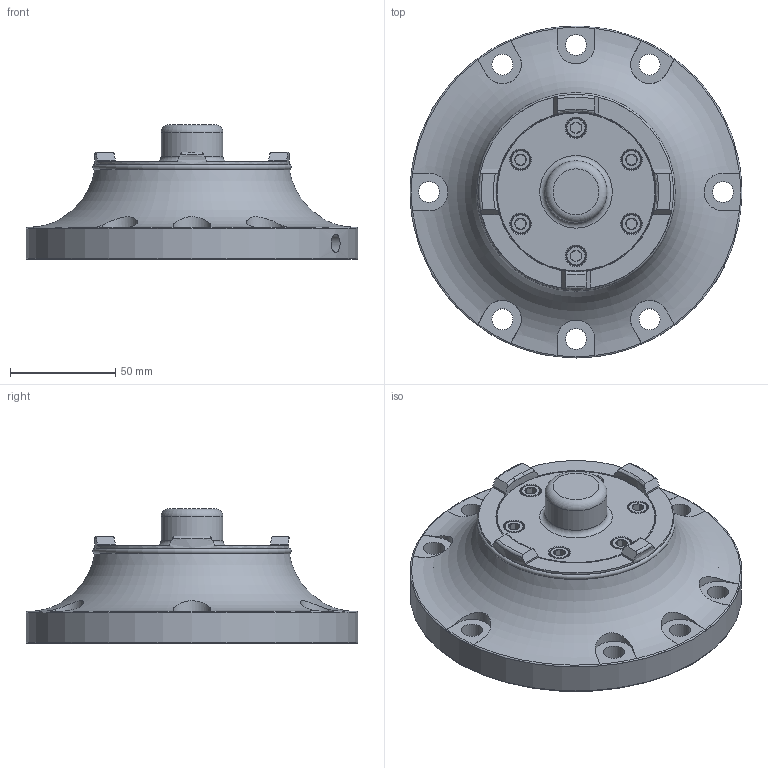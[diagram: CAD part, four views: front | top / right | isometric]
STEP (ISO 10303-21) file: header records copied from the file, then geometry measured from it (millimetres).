
FILE_DESCRIPTION(/* description */ (''),/* implementation_level */ '2;1');
FILE_NAME(/* name */ 'Pierson Workholding MAX-4 Base STEP.step',/* time_stamp */ '2024-01-31T11:53:02-08:00',/* author */ (''),/* organization */ (''),/* preprocessor_version */ 'ST-DEVELOPER v20',/* originating_system */ 'Autodesk Translation Framework v12.14.0.127',/* authorisation */ '');
FILE_SCHEMA (('AUTOMOTIVE_DESIGN { 1 0 10303 214 3 1 1 }'));
Products named in the file (1): MAX-4 Base
Bounding box: 157.99 x 157.99 x 64.14 mm (x, y, z)
Volume: 564566 mm3; surface area: 71658.6 mm2
Topology: 1 solids, 9 shells, 1745 faces, 4281 edges, 2576 vertices
Faces by surface type: plane 844, cylinder 450, cone 423, torus 16, bspline 12
Full cylindrical faces by diameter (mm): 5.172 x6, 6.35 x12, 6.528 x6, 8.526 x4, 8.611 x2, 9.779 x6, 10 x8, 16.078 x4, 19.05 x1, 29.464 x1, 73.66 x1, 75.692 x1, 76.2 x1, 89.256 x2, 92.71 x2, 157.988 x1
Entity records: 65131 total; most frequent: CARTESIAN_POINT 26513, ORIENTED_EDGE 8554, DIRECTION 7461, EDGE_CURVE 4277, AXIS2_PLACEMENT_3D 3070, VERTEX_POINT 2576, EDGE_LOOP 1803, FACE_OUTER_BOUND 1745
